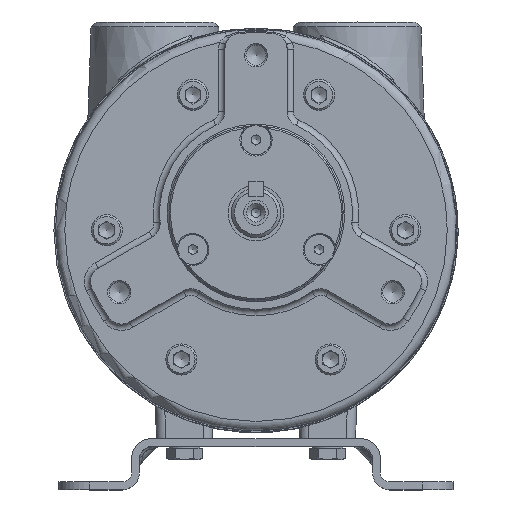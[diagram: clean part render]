
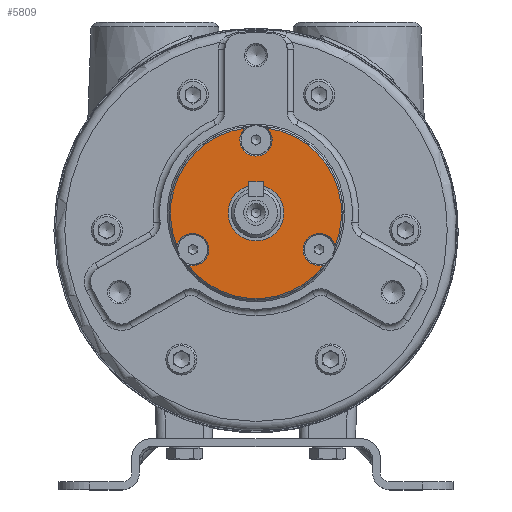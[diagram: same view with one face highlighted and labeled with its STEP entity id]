
A CAD part, top view. The second image highlights one B-rep face of the part: STEP entity #5809.
In plain terms, the highlighted planar face has unit normal (0, 0, 1).
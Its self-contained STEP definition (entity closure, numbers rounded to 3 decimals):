
#509 = EDGE_CURVE ( 'NONE', #11455, #29837, #13772, .T. ) ;
#668 = PLANE ( 'NONE',  #3125 ) ;
#1894 = EDGE_CURVE ( 'NONE', #6969, #21963, #26648, .T. ) ;
#2214 = CARTESIAN_POINT ( 'NONE',  ( -25.406, -5.025, 70.36 ) ) ;
#2256 = DIRECTION ( 'NONE',  ( 0., 0., -1. ) ) ;
#2411 = CARTESIAN_POINT ( 'NONE',  ( 0., 5.501, 70.36 ) ) ;
#2575 = ORIENTED_EDGE ( 'NONE', *, *, #3593, .F. ) ;
#3125 = AXIS2_PLACEMENT_3D ( 'NONE', #12724, #5663, #10482 ) ;
#3232 = FACE_BOUND ( 'NONE', #7663, .T. ) ;
#3593 = EDGE_CURVE ( 'NONE', #29837, #23872, #17118, .T. ) ;
#3616 = CARTESIAN_POINT ( 'NONE',  ( 0., 5.501, 70.36 ) ) ;
#4287 = CARTESIAN_POINT ( 'NONE',  ( -20.352, -6.249, 70.36 ) ) ;
#4439 = DIRECTION ( 'NONE',  ( 0., 0., 1. ) ) ;
#5024 = VERTEX_POINT ( 'NONE', #29497 ) ;
#5257 = DIRECTION ( 'NONE',  ( 1., 0., 0. ) ) ;
#5663 = DIRECTION ( 'NONE',  ( 0., 0., -1. ) ) ;
#5809 = ADVANCED_FACE ( 'NONE', ( #24953, #3232 ), #668, .F. ) ;
#6969 = VERTEX_POINT ( 'NONE', #2214 ) ;
#7663 = EDGE_LOOP ( 'NONE', ( #26457 ) ) ;
#7958 = AXIS2_PLACEMENT_3D ( 'NONE', #17475, #29670, #15382 ) ;
#8507 = DIRECTION ( 'NONE',  ( 0., 0., -1. ) ) ;
#9450 = CIRCLE ( 'NONE', #12000, 27.5 ) ;
#10173 = CARTESIAN_POINT ( 'NONE',  ( -3.587, 32.766, 70.36 ) ) ;
#10188 = EDGE_CURVE ( 'NONE', #5024, #5024, #10455, .T. ) ;
#10455 = CIRCLE ( 'NONE', #27477, 9. ) ;
#10482 = DIRECTION ( 'NONE',  ( -1., 0., 0. ) ) ;
#11455 = VERTEX_POINT ( 'NONE', #14447 ) ;
#12000 = AXIS2_PLACEMENT_3D ( 'NONE', #2411, #2256, #23809 ) ;
#12724 = CARTESIAN_POINT ( 'NONE',  ( 0., 14.501, 70.36 ) ) ;
#13772 = CIRCLE ( 'NONE', #17873, 5.2 ) ;
#14252 = DIRECTION ( 'NONE',  ( 0., 0., 1. ) ) ;
#14447 = CARTESIAN_POINT ( 'NONE',  ( 25.406, -5.025, 70.36 ) ) ;
#14659 = CARTESIAN_POINT ( 'NONE',  ( 3.587, 32.766, 70.36 ) ) ;
#14683 = EDGE_LOOP ( 'NONE', ( #20499, #21085, #2575, #19191, #27170, #21514 ) ) ;
#15185 = CIRCLE ( 'NONE', #24933, 5.2 ) ;
#15382 = DIRECTION ( 'NONE',  ( 1., 0., 0. ) ) ;
#16229 = DIRECTION ( 'NONE',  ( -1., 0., 0. ) ) ;
#17118 = CIRCLE ( 'NONE', #24743, 27.5 ) ;
#17475 = CARTESIAN_POINT ( 'NONE',  ( 0., 29.001, 70.36 ) ) ;
#17519 = DIRECTION ( 'NONE',  ( 0., 0., 1. ) ) ;
#17873 = AXIS2_PLACEMENT_3D ( 'NONE', #26981, #17519, #5257 ) ;
#19191 = ORIENTED_EDGE ( 'NONE', *, *, #509, .F. ) ;
#19381 = EDGE_CURVE ( 'NONE', #21963, #28054, #24354, .T. ) ;
#19842 = EDGE_CURVE ( 'NONE', #28054, #11455, #9450, .T. ) ;
#20499 = ORIENTED_EDGE ( 'NONE', *, *, #1894, .F. ) ;
#21085 = ORIENTED_EDGE ( 'NONE', *, *, #21107, .F. ) ;
#21107 = EDGE_CURVE ( 'NONE', #23872, #6969, #15185, .T. ) ;
#21148 = DIRECTION ( 'NONE',  ( -1., 0., 0. ) ) ;
#21478 = DIRECTION ( 'NONE',  ( 1., 0., 0. ) ) ;
#21514 = ORIENTED_EDGE ( 'NONE', *, *, #19381, .F. ) ;
#21963 = VERTEX_POINT ( 'NONE', #10173 ) ;
#23809 = DIRECTION ( 'NONE',  ( -1., 0., 0. ) ) ;
#23872 = VERTEX_POINT ( 'NONE', #27988 ) ;
#24354 = CIRCLE ( 'NONE', #7958, 5.2 ) ;
#24743 = AXIS2_PLACEMENT_3D ( 'NONE', #3616, #30679, #21148 ) ;
#24933 = AXIS2_PLACEMENT_3D ( 'NONE', #4287, #4439, #21478 ) ;
#24953 = FACE_OUTER_BOUND ( 'NONE', #14683, .T. ) ;
#25535 = CARTESIAN_POINT ( 'NONE',  ( 0., 5.501, 70.36 ) ) ;
#26297 = CARTESIAN_POINT ( 'NONE',  ( 0., 5.501, 70.36 ) ) ;
#26457 = ORIENTED_EDGE ( 'NONE', *, *, #10188, .F. ) ;
#26648 = CIRCLE ( 'NONE', #27177, 27.5 ) ;
#26981 = CARTESIAN_POINT ( 'NONE',  ( 20.352, -6.249, 70.36 ) ) ;
#27170 = ORIENTED_EDGE ( 'NONE', *, *, #19842, .F. ) ;
#27177 = AXIS2_PLACEMENT_3D ( 'NONE', #25535, #8507, #30366 ) ;
#27477 = AXIS2_PLACEMENT_3D ( 'NONE', #26297, #14252, #16229 ) ;
#27798 = CARTESIAN_POINT ( 'NONE',  ( 21.819, -11.237, 70.36 ) ) ;
#27988 = CARTESIAN_POINT ( 'NONE',  ( -21.819, -11.237, 70.36 ) ) ;
#28054 = VERTEX_POINT ( 'NONE', #14659 ) ;
#29497 = CARTESIAN_POINT ( 'NONE',  ( -9., 5.501, 70.36 ) ) ;
#29670 = DIRECTION ( 'NONE',  ( 0., 0., 1. ) ) ;
#29837 = VERTEX_POINT ( 'NONE', #27798 ) ;
#30366 = DIRECTION ( 'NONE',  ( -1., 0., 0. ) ) ;
#30679 = DIRECTION ( 'NONE',  ( 0., 0., -1. ) ) ;
